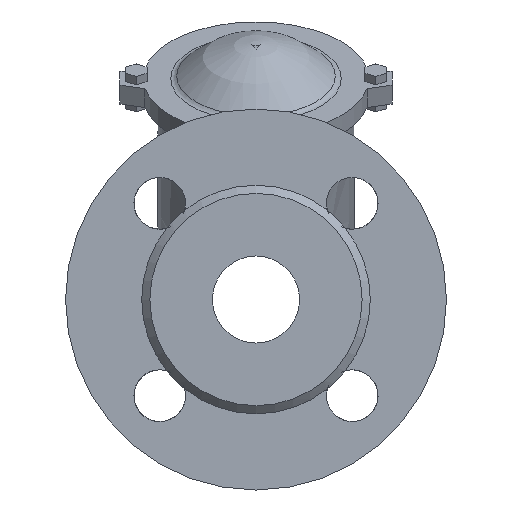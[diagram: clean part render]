
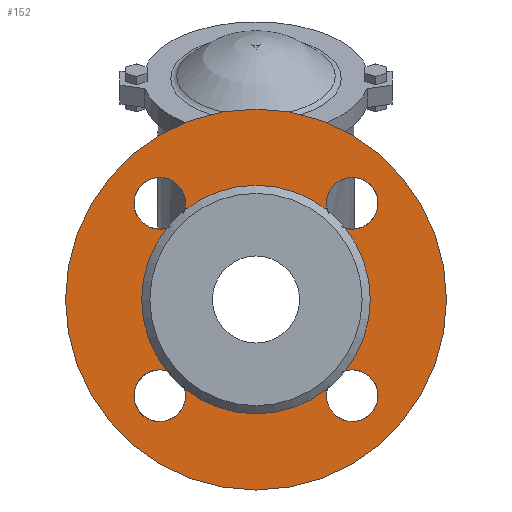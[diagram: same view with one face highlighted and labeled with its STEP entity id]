
A CAD part, left-side view. The second image highlights one B-rep face of the part: STEP entity #152.
In plain terms, the highlighted planar face has unit normal (-1, 0, 0).
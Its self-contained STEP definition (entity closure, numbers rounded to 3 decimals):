
#152=ADVANCED_FACE('',(#1114,#1116),#1118,.T.);
#1114=FACE_BOUND('',#1115,.T.);
#1115=EDGE_LOOP('',(#3684));
#1116=FACE_BOUND('',#1117,.T.);
#1117=EDGE_LOOP('',(#3685,#3686,#3687,#3688,#3689,#3690,#3691,#3692,#3693,#3694,
#3695,#3696,#3697));
#1118=PLANE('',#1119);
#1119=AXIS2_PLACEMENT_3D('',#1120,#1121,#1122);
#1120=CARTESIAN_POINT('',(-78.019,0.,0.));
#1121=DIRECTION('',(-1.,0.,0.));
#1122=DIRECTION('',(0.,0.,-1.));
#3684=ORIENTED_EDGE('',*,*,#4170,.F.);
#3685=ORIENTED_EDGE('',*,*,#4171,.T.);
#3686=ORIENTED_EDGE('',*,*,#4172,.T.);
#3687=ORIENTED_EDGE('',*,*,#4150,.T.);
#3688=ORIENTED_EDGE('',*,*,#4149,.T.);
#3689=ORIENTED_EDGE('',*,*,#4173,.T.);
#3690=ORIENTED_EDGE('',*,*,#4174,.T.);
#3691=ORIENTED_EDGE('',*,*,#4147,.T.);
#3692=ORIENTED_EDGE('',*,*,#4175,.T.);
#3693=ORIENTED_EDGE('',*,*,#4176,.T.);
#3694=ORIENTED_EDGE('',*,*,#4154,.T.);
#3695=ORIENTED_EDGE('',*,*,#4177,.T.);
#3696=ORIENTED_EDGE('',*,*,#4178,.T.);
#3697=ORIENTED_EDGE('',*,*,#4152,.T.);
#4147=EDGE_CURVE('',#4413,#4414,#4415,.T.);
#4149=EDGE_CURVE('',#4418,#4416,#4419,.T.);
#4150=EDGE_CURVE('',#4420,#4418,#4421,.T.);
#4152=EDGE_CURVE('',#4424,#4422,#4425,.T.);
#4154=EDGE_CURVE('',#4428,#4426,#4429,.T.);
#4170=EDGE_CURVE('',#4450,#4450,#4451,.T.);
#4171=EDGE_CURVE('',#4422,#4452,#4453,.F.);
#4172=EDGE_CURVE('',#4452,#4420,#4454,.F.);
#4173=EDGE_CURVE('',#4416,#4455,#4456,.F.);
#4174=EDGE_CURVE('',#4455,#4413,#4457,.F.);
#4175=EDGE_CURVE('',#4414,#4458,#4459,.F.);
#4176=EDGE_CURVE('',#4458,#4428,#4460,.F.);
#4177=EDGE_CURVE('',#4426,#4461,#4462,.F.);
#4178=EDGE_CURVE('',#4461,#4424,#4463,.F.);
#4413=VERTEX_POINT('',#4872);
#4414=VERTEX_POINT('',#4873);
#4415=CIRCLE('',#4874,42.);
#4416=VERTEX_POINT('',#4878);
#4418=VERTEX_POINT('',#4883);
#4419=CIRCLE('',#4884,42.);
#4420=VERTEX_POINT('',#4888);
#4421=CIRCLE('',#4889,42.);
#4422=VERTEX_POINT('',#4893);
#4424=VERTEX_POINT('',#4898);
#4425=CIRCLE('',#4899,42.);
#4426=VERTEX_POINT('',#4903);
#4428=VERTEX_POINT('',#4908);
#4429=CIRCLE('',#4909,42.);
#4450=VERTEX_POINT('',#4978);
#4451=CIRCLE('',#4979,70.);
#4452=VERTEX_POINT('',#4983);
#4453=CIRCLE('',#4984,9.5);
#4454=CIRCLE('',#4988,9.5);
#4455=VERTEX_POINT('',#4992);
#4456=CIRCLE('',#4993,9.5);
#4457=CIRCLE('',#4997,9.5);
#4458=VERTEX_POINT('',#5001);
#4459=CIRCLE('',#5002,9.5);
#4460=CIRCLE('',#5006,9.5);
#4461=VERTEX_POINT('',#5010);
#4462=CIRCLE('',#5011,9.5);
#4463=CIRCLE('',#5015,9.5);
#4872=CARTESIAN_POINT('',(-78.019,32.828,-26.198));
#4873=CARTESIAN_POINT('',(-78.019,32.828,26.198));
#4874=AXIS2_PLACEMENT_3D('',#4875,#4876,#4877);
#4875=CARTESIAN_POINT('',(-78.019,0.,0.));
#4876=DIRECTION('',(1.,0.,0.));
#4877=DIRECTION('',(0.,0.782,-0.624));
#4878=CARTESIAN_POINT('',(-78.019,26.198,-32.828));
#4883=CARTESIAN_POINT('',(-78.019,0.,-42.));
#4884=AXIS2_PLACEMENT_3D('',#4885,#4886,#4887);
#4885=CARTESIAN_POINT('',(-78.019,0.,0.));
#4886=DIRECTION('',(1.,0.,0.));
#4887=DIRECTION('',(0.,0.,-1.));
#4888=CARTESIAN_POINT('',(-78.019,-26.198,-32.828));
#4889=AXIS2_PLACEMENT_3D('',#4890,#4891,#4892);
#4890=CARTESIAN_POINT('',(-78.019,0.,0.));
#4891=DIRECTION('',(1.,0.,0.));
#4892=DIRECTION('',(0.,-0.624,-0.782));
#4893=CARTESIAN_POINT('',(-78.019,-32.828,-26.198));
#4898=CARTESIAN_POINT('',(-78.019,-32.828,26.198));
#4899=AXIS2_PLACEMENT_3D('',#4900,#4901,#4902);
#4900=CARTESIAN_POINT('',(-78.019,0.,0.));
#4901=DIRECTION('',(1.,0.,0.));
#4902=DIRECTION('',(0.,-0.782,0.624));
#4903=CARTESIAN_POINT('',(-78.019,-26.198,32.828));
#4908=CARTESIAN_POINT('',(-78.019,26.198,32.828));
#4909=AXIS2_PLACEMENT_3D('',#4910,#4911,#4912);
#4910=CARTESIAN_POINT('',(-78.019,0.,0.));
#4911=DIRECTION('',(1.,0.,0.));
#4912=DIRECTION('',(0.,0.624,0.782));
#4978=CARTESIAN_POINT('',(-78.019,0.,-70.));
#4979=AXIS2_PLACEMENT_3D('',#4980,#4981,#4982);
#4980=CARTESIAN_POINT('',(-78.019,0.,0.));
#4981=DIRECTION('',(1.,0.,0.));
#4982=DIRECTION('',(0.,0.,-1.));
#4983=CARTESIAN_POINT('',(-78.019,-35.355,-44.855));
#4984=AXIS2_PLACEMENT_3D('',#4985,#4986,#4987);
#4985=CARTESIAN_POINT('',(-78.019,-35.355,-35.355));
#4986=DIRECTION('',(-1.,0.,0.));
#4987=DIRECTION('',(0.,0.,-1.));
#4988=AXIS2_PLACEMENT_3D('',#4989,#4990,#4991);
#4989=CARTESIAN_POINT('',(-78.019,-35.355,-35.355));
#4990=DIRECTION('',(-1.,0.,0.));
#4991=DIRECTION('',(0.,0.964,0.266));
#4992=CARTESIAN_POINT('',(-78.019,44.855,-35.355));
#4993=AXIS2_PLACEMENT_3D('',#4994,#4995,#4996);
#4994=CARTESIAN_POINT('',(-78.019,35.355,-35.355));
#4995=DIRECTION('',(-1.,0.,0.));
#4996=DIRECTION('',(0.,1.,0.));
#4997=AXIS2_PLACEMENT_3D('',#4998,#4999,#5000);
#4998=CARTESIAN_POINT('',(-78.019,35.355,-35.355));
#4999=DIRECTION('',(-1.,0.,0.));
#5000=DIRECTION('',(0.,-0.266,0.964));
#5001=CARTESIAN_POINT('',(-78.019,35.355,44.855));
#5002=AXIS2_PLACEMENT_3D('',#5003,#5004,#5005);
#5003=CARTESIAN_POINT('',(-78.019,35.355,35.355));
#5004=DIRECTION('',(-1.,0.,0.));
#5005=DIRECTION('',(0.,0.,1.));
#5006=AXIS2_PLACEMENT_3D('',#5007,#5008,#5009);
#5007=CARTESIAN_POINT('',(-78.019,35.355,35.355));
#5008=DIRECTION('',(-1.,0.,0.));
#5009=DIRECTION('',(0.,-0.964,-0.266));
#5010=CARTESIAN_POINT('',(-78.019,-44.855,35.355));
#5011=AXIS2_PLACEMENT_3D('',#5012,#5013,#5014);
#5012=CARTESIAN_POINT('',(-78.019,-35.355,35.355));
#5013=DIRECTION('',(-1.,0.,0.));
#5014=DIRECTION('',(0.,-1.,0.));
#5015=AXIS2_PLACEMENT_3D('',#5016,#5017,#5018);
#5016=CARTESIAN_POINT('',(-78.019,-35.355,35.355));
#5017=DIRECTION('',(-1.,0.,0.));
#5018=DIRECTION('',(0.,0.266,-0.964));
